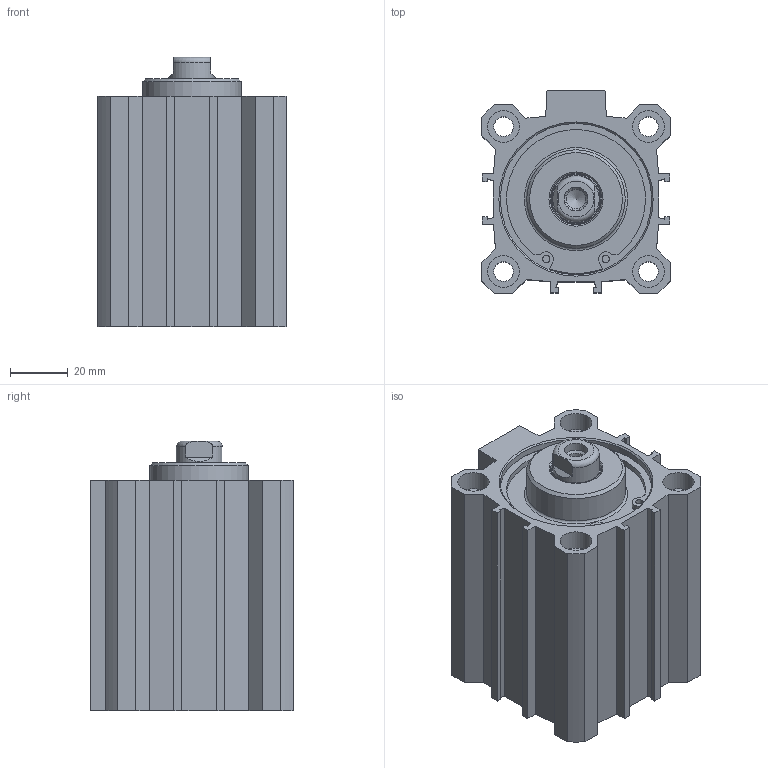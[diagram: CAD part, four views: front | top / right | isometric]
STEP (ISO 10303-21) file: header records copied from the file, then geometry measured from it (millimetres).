
FILE_DESCRIPTION(/* description */ ('Unknown'),/* implementation_level */ '2;1');
FILE_NAME(/* name */ 'FIN 50_40',/* time_stamp */ '2026-05-12T08:29:07+02:00',/* author */ ('Unknown'),/* organization */ ('Unknown'),/* preprocessor_version */ 'ST-DEVELOPER v18.102',/* originating_system */ 'Solid Edge',/* authorisation */ 'Unknown');
FILE_SCHEMA (('AUTOMOTIVE_DESIGN {1 0 10303 214 3 1 1}'));
Length unit declared in the file: millimetre
Products named in the file (5): FIN 50_40; Kit_1; Profilrohr; Kit_2; Kolbenstange
Assembly tree (4 placements, depth 2):
  FIN 50_40
    Kit_1
    Profilrohr
    Kit_2
    Kolbenstange
Bounding box: 65 x 70 x 93 mm (x, y, z)
Volume: 206248.8 mm3; surface area: 76470.3 mm2
Topology: 4 solids, 5 shells, 208 faces, 492 edges, 315 vertices
Faces by surface type: plane 107, cylinder 60, cone 31, torus 10
Full cylindrical faces by diameter (mm): 2.5 x4, 2.75 x2, 6.647 x2, 6.8 x4, 8.25 x1, 8.566 x4, 11 x8, 16 x2, 16.54 x1, 17.7 x1, 18 x1, 20.32 x1, 20.5 x1, 34 x1, 37 x1, 50 x2, 51.8 x4, 52.2 x2, 55.2 x2
Entity records: 7090 total; most frequent: CARTESIAN_POINT 1038, DIRECTION 964, ORIENTED_EDGE 780, EDGE_CURVE 390, AXIS2_PLACEMENT_3D 371, FACE_BOUND 331, EDGE_LOOP 330, VERTEX_POINT 297
